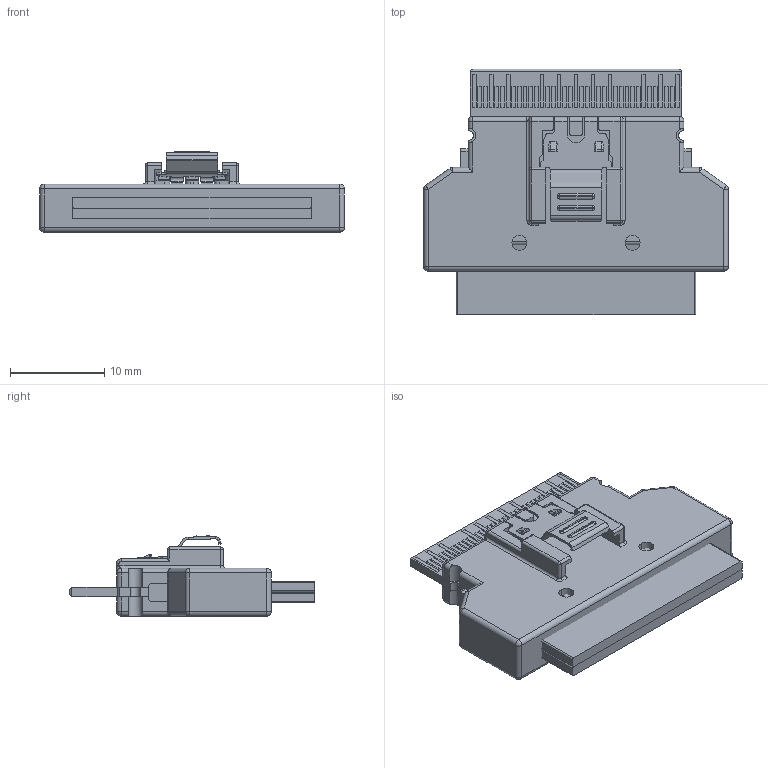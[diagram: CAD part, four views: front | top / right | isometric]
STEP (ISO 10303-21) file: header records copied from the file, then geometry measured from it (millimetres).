
FILE_DESCRIPTION((''),'2;1');
FILE_NAME('STRAIGHT__SLIMSAS_8I_FOR_28AWG__ASM','2016-08-18T',('louischan'),(''),'PRO/ENGINEER BY PARAMETRIC TECHNOLOGY CORPORATION, 2013230','PRO/ENGINEER BY PARAMETRIC TECHNOLOGY CORPORATION, 2013230','');
FILE_SCHEMA(('CONFIG_CONTROL_DESIGN'));
Length unit declared in the file: millimetre
Products named in the file (8): PLUG_PCB_11_1; PRT0009_1; LATCH_0828_1_1; 31AWG_RIBBON_CABLE_5_1; INNERMLD_3_1; PLUG_ASM_31_ASM_1_ASM; 11_ASM_1_ASM; STRAIGHT__SLIMSAS_8I_FOR_28AWG__ASM
Assembly tree (8 placements, depth 4):
  STRAIGHT__SLIMSAS_8I_FOR_28AWG__ASM
    11_ASM_1_ASM
      PLUG_ASM_31_ASM_1_ASM
        PLUG_PCB_11_1
        PRT0009_1
        LATCH_0828_1_1
        31AWG_RIBBON_CABLE_5_1  x2
        INNERMLD_3_1
Bounding box: 32.35 x 26.1 x 8.54 mm (x, y, z)
Volume: 3421.8 mm3; surface area: 4768.2 mm2
Topology: 6 solids, 6 shells, 1072 faces, 2775 edges, 1777 vertices
Faces by surface type: plane 739, cylinder 190, extrusion 76, sphere 36, torus 19, bspline 12
Entity records: 32211 total; most frequent: CARTESIAN_POINT 6826, ORIENTED_EDGE 5326, DIRECTION 4882, EDGE_CURVE 2663, VECTOR 2142, LINE 2066, VERTEX_POINT 1733, AXIS2_PLACEMENT_3D 1370
